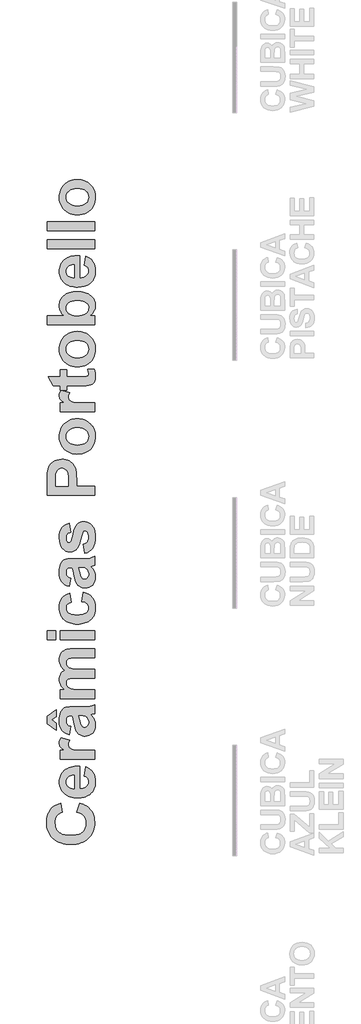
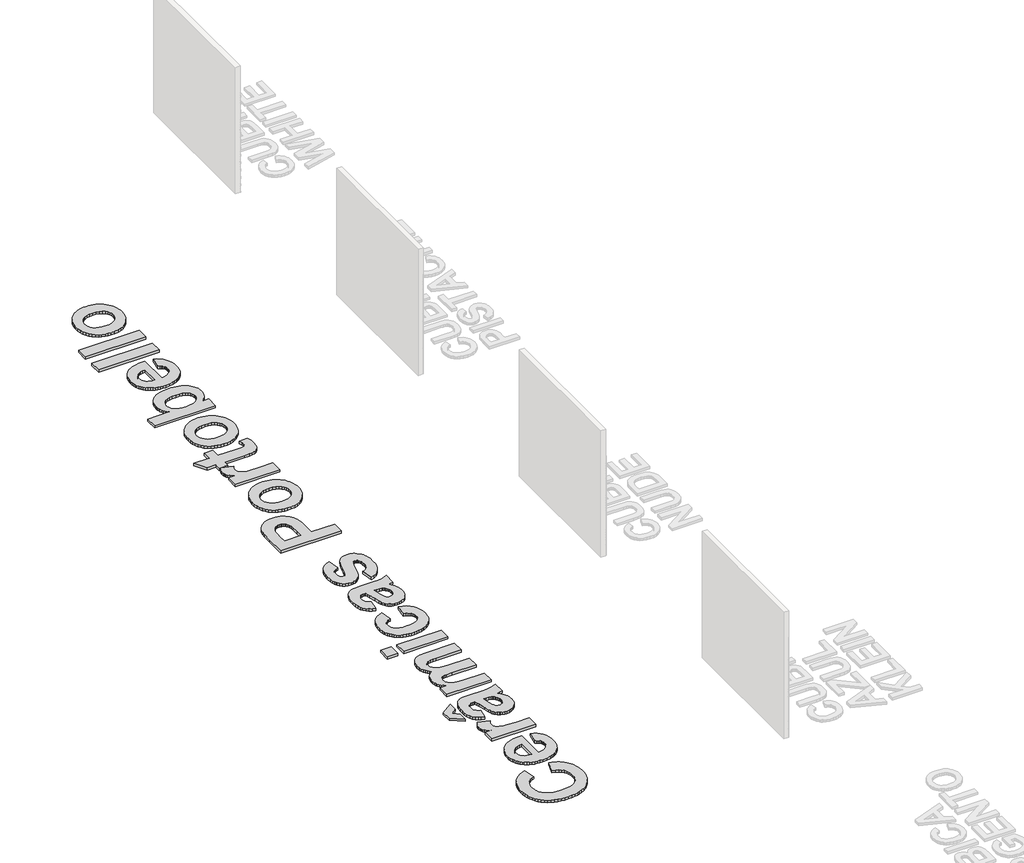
# One storey, part 63 of 121: 21 proxies.
"""IFC4 building model written with IfcOpenShell, lengths in millimetres."""

from ifc_helpers import new_model, si_unit, origin, origin_with_axes, place, context, project, spatial, polyline, outline, extrude, transform, mapped, element, save
from components import generic_models_b2b2c5c1, generic_models_5d175859

model = new_model("IFC4")

# Units and contexts
model_context = context("Model", 3, world=origin())
ifc_project = project(units=[si_unit("LENGTHUNIT", "METRE", prefix="MILLI")], contexts=[model_context])

# Site, building, storey
site = spatial("IfcSite", under=ifc_project)
building = spatial("IfcBuilding", under=site)
storey = spatial("IfcBuildingStorey", under=building, Name="PORTOBELLO - SHOWROOM", Elevation=0.0)

# Proxies
placement = place(None, origin())
generic_models_shape = generic_models_b2b2c5c1(model_context)
element("IfcBuildingElementProxy", 1, Name="PBSHOP - CUBICA NUDE 4,8X8,3 : CUBICA NUDE - POSIÇÃO 01", ObjectType="PBSHOP - CUBICA NUDE 4,8X8,3 : CUBICA NUDE - POSIÇÃO 01", at=placement, inside=storey, context=model_context, shape_type="MappedRepresentation", body=[
    mapped(generic_models_shape, transform((150369.5341846, 8031.654592, 39.4221668), x_axis=(0.0, 1.0, 0.0), y_axis=(0.0, 0.0, 1.0), z_axis=(1.0, 0.0, 0.0))),
])
element("IfcBuildingElementProxy", 2, Name="PBSHOP - CUBICA NUDE 4,8X8,3 : CUBICA NUDE - POSIÇÃO 01", ObjectType="PBSHOP - CUBICA NUDE 4,8X8,3 : CUBICA NUDE - POSIÇÃO 01", at=placement, inside=storey, context=model_context, shape_type="MappedRepresentation", body=[
    mapped(generic_models_shape, transform((150369.5341846, 8122.4938612, 39.4221668), x_axis=(0.0, 1.0, 0.0), y_axis=(0.0, 0.0, 1.0), z_axis=(1.0, 0.0, 0.0))),
])
element("IfcBuildingElementProxy", 3, Name="PBSHOP - CUBICA NUDE 4,8X8,3 : CUBICA NUDE - POSIÇÃO 01", ObjectType="PBSHOP - CUBICA NUDE 4,8X8,3 : CUBICA NUDE - POSIÇÃO 01", at=placement, inside=storey, context=model_context, shape_type="MappedRepresentation", body=[
    mapped(generic_models_shape, transform((150369.5341846, 8213.3331304, 39.4221668), x_axis=(0.0, 1.0, 0.0), y_axis=(0.0, 0.0, 1.0), z_axis=(1.0, 0.0, 0.0))),
])
element("IfcBuildingElementProxy", 4, Name="PBSHOP - CUBICA NUDE 4,8X8,3 : CUBICA NUDE - POSIÇÃO 01", ObjectType="PBSHOP - CUBICA NUDE 4,8X8,3 : CUBICA NUDE - POSIÇÃO 01", at=placement, inside=storey, context=model_context, shape_type="MappedRepresentation", body=[
    mapped(generic_models_shape, transform((150369.5341846, 8304.1723997, 39.4221668), x_axis=(0.0, 1.0, 0.0), y_axis=(0.0, 0.0, 1.0), z_axis=(1.0, 0.0, 0.0))),
])
element("IfcBuildingElementProxy", 5, Name="PBSHOP - CUBICA NUDE 4,8X8,3 : CUBICA NUDE - POSIÇÃO 01", ObjectType="PBSHOP - CUBICA NUDE 4,8X8,3 : CUBICA NUDE - POSIÇÃO 01", at=placement, inside=storey, context=model_context, shape_type="MappedRepresentation", body=[
    mapped(generic_models_shape, transform((150369.5341846, 8395.0116689, 39.4221668), x_axis=(0.0, 1.0, 0.0), y_axis=(0.0, 0.0, 1.0), z_axis=(1.0, 0.0, 0.0))),
])
element("IfcBuildingElementProxy", 6, Name="PBSHOP - CUBICA NUDE 4,8X8,3 : CUBICA NUDE - POSIÇÃO 01", ObjectType="PBSHOP - CUBICA NUDE 4,8X8,3 : CUBICA NUDE - POSIÇÃO 01", at=placement, inside=storey, context=model_context, shape_type="MappedRepresentation", body=[
    mapped(generic_models_shape, transform((150369.5341846, 8485.8509382, 39.4221668), x_axis=(0.0, 1.0, 0.0), y_axis=(0.0, 0.0, 1.0), z_axis=(1.0, 0.0, 0.0))),
])
element("IfcBuildingElementProxy", 7, Name="PBSHOP - CUBICA NUDE 4,8X8,3 : CUBICA NUDE - POSIÇÃO 01", ObjectType="PBSHOP - CUBICA NUDE 4,8X8,3 : CUBICA NUDE - POSIÇÃO 01", at=placement, inside=storey, context=model_context, shape_type="MappedRepresentation", body=[
    mapped(generic_models_shape, transform((150369.5341846, 8576.6902074, 39.4221668), x_axis=(0.0, 1.0, 0.0), y_axis=(0.0, 0.0, 1.0), z_axis=(1.0, 0.0, 0.0))),
])
element("IfcBuildingElementProxy", 8, Name="PBSHOP - CUBICA NUDE 4,8X8,3 : CUBICA NUDE - POSIÇÃO 01", ObjectType="PBSHOP - CUBICA NUDE 4,8X8,3 : CUBICA NUDE - POSIÇÃO 01", at=placement, inside=storey, context=model_context, shape_type="MappedRepresentation", body=[
    mapped(generic_models_shape, transform((150369.5341846, 8667.5294767, 39.4221668), x_axis=(0.0, 1.0, 0.0), y_axis=(0.0, 0.0, 1.0), z_axis=(1.0, 0.0, 0.0))),
])
element("IfcBuildingElementProxy", 9, Name="PBSHOP - CUBICA NUDE 4,8X8,3 : CUBICA NUDE - POSIÇÃO 01", ObjectType="PBSHOP - CUBICA NUDE 4,8X8,3 : CUBICA NUDE - POSIÇÃO 01", at=placement, inside=storey, context=model_context, shape_type="MappedRepresentation", body=[
    mapped(generic_models_shape, transform((150369.5341846, 8758.3687459, 39.4221668), x_axis=(0.0, 1.0, 0.0), y_axis=(0.0, 0.0, 1.0), z_axis=(1.0, 0.0, 0.0))),
])
element("IfcBuildingElementProxy", 10, Name="PBSHOP - CUBICA NUDE 4,8X8,3 : CUBICA NUDE - POSIÇÃO 01", ObjectType="PBSHOP - CUBICA NUDE 4,8X8,3 : CUBICA NUDE - POSIÇÃO 01", at=placement, inside=storey, context=model_context, shape_type="MappedRepresentation", body=[
    mapped(generic_models_shape, transform((150369.5341846, 8849.2080152, 39.4221668), x_axis=(0.0, 1.0, 0.0), y_axis=(0.0, 0.0, 1.0), z_axis=(1.0, 0.0, 0.0))),
])
generic_models_2_shape = generic_models_5d175859(model_context)
element("IfcBuildingElementProxy", 11, Name="PBSHOP - CUBICA NUDE 4,8X8,3 : CUBICA NUDE - POSIÇÃO 01", ObjectType="PBSHOP - CUBICA NUDE 4,8X8,3 : CUBICA NUDE - POSIÇÃO 01", at=placement, inside=storey, context=model_context, shape_type="MappedRepresentation", body=[
    mapped(generic_models_2_shape, transform((150369.5341846, 8077.0785449, 39.4221668), x_axis=(0.0, -1.0, 0.0), y_axis=(0.0, 0.0, -1.0), z_axis=(1.0, 0.0, 0.0))),
])
element("IfcBuildingElementProxy", 12, Name="PBSHOP - CUBICA NUDE 4,8X8,3 : CUBICA NUDE - POSIÇÃO 01", ObjectType="PBSHOP - CUBICA NUDE 4,8X8,3 : CUBICA NUDE - POSIÇÃO 01", at=placement, inside=storey, context=model_context, shape_type="MappedRepresentation", body=[
    mapped(generic_models_2_shape, transform((150369.5341846, 8167.9178142, 39.4221668), x_axis=(0.0, -1.0, 0.0), y_axis=(0.0, 0.0, -1.0), z_axis=(1.0, 0.0, 0.0))),
])
element("IfcBuildingElementProxy", 13, Name="PBSHOP - CUBICA NUDE 4,8X8,3 : CUBICA NUDE - POSIÇÃO 01", ObjectType="PBSHOP - CUBICA NUDE 4,8X8,3 : CUBICA NUDE - POSIÇÃO 01", at=placement, inside=storey, context=model_context, shape_type="MappedRepresentation", body=[
    mapped(generic_models_2_shape, transform((150369.5341846, 8258.7570834, 39.4221668), x_axis=(0.0, -1.0, 0.0), y_axis=(0.0, 0.0, -1.0), z_axis=(1.0, 0.0, 0.0))),
])
element("IfcBuildingElementProxy", 14, Name="PBSHOP - CUBICA NUDE 4,8X8,3 : CUBICA NUDE - POSIÇÃO 01", ObjectType="PBSHOP - CUBICA NUDE 4,8X8,3 : CUBICA NUDE - POSIÇÃO 01", at=placement, inside=storey, context=model_context, shape_type="MappedRepresentation", body=[
    mapped(generic_models_2_shape, transform((150369.5341846, 8349.5963526, 39.4221668), x_axis=(0.0, -1.0, 0.0), y_axis=(0.0, 0.0, -1.0), z_axis=(1.0, 0.0, 0.0))),
])
element("IfcBuildingElementProxy", 15, Name="PBSHOP - CUBICA NUDE 4,8X8,3 : CUBICA NUDE - POSIÇÃO 01", ObjectType="PBSHOP - CUBICA NUDE 4,8X8,3 : CUBICA NUDE - POSIÇÃO 01", at=placement, inside=storey, context=model_context, shape_type="MappedRepresentation", body=[
    mapped(generic_models_2_shape, transform((150369.5341846, 8440.4356219, 39.4221668), x_axis=(0.0, -1.0, 0.0), y_axis=(0.0, 0.0, -1.0), z_axis=(1.0, 0.0, 0.0))),
])
element("IfcBuildingElementProxy", 16, Name="PBSHOP - CUBICA NUDE 4,8X8,3 : CUBICA NUDE - POSIÇÃO 01", ObjectType="PBSHOP - CUBICA NUDE 4,8X8,3 : CUBICA NUDE - POSIÇÃO 01", at=placement, inside=storey, context=model_context, shape_type="MappedRepresentation", body=[
    mapped(generic_models_2_shape, transform((150369.5341846, 8531.2748911, 39.4221668), x_axis=(0.0, -1.0, 0.0), y_axis=(0.0, 0.0, -1.0), z_axis=(1.0, 0.0, 0.0))),
])
element("IfcBuildingElementProxy", 17, Name="PBSHOP - CUBICA NUDE 4,8X8,3 : CUBICA NUDE - POSIÇÃO 01", ObjectType="PBSHOP - CUBICA NUDE 4,8X8,3 : CUBICA NUDE - POSIÇÃO 01", at=placement, inside=storey, context=model_context, shape_type="MappedRepresentation", body=[
    mapped(generic_models_2_shape, transform((150369.5341846, 8622.1141604, 39.4221668), x_axis=(0.0, -1.0, 0.0), y_axis=(0.0, 0.0, -1.0), z_axis=(1.0, 0.0, 0.0))),
])
element("IfcBuildingElementProxy", 18, Name="PBSHOP - CUBICA NUDE 4,8X8,3 : CUBICA NUDE - POSIÇÃO 01", ObjectType="PBSHOP - CUBICA NUDE 4,8X8,3 : CUBICA NUDE - POSIÇÃO 01", at=placement, inside=storey, context=model_context, shape_type="MappedRepresentation", body=[
    mapped(generic_models_2_shape, transform((150369.5341846, 8712.9534296, 39.4221668), x_axis=(0.0, -1.0, 0.0), y_axis=(0.0, 0.0, -1.0), z_axis=(1.0, 0.0, 0.0))),
])
element("IfcBuildingElementProxy", 19, Name="PBSHOP - CUBICA NUDE 4,8X8,3 : CUBICA NUDE - POSIÇÃO 01", ObjectType="PBSHOP - CUBICA NUDE 4,8X8,3 : CUBICA NUDE - POSIÇÃO 01", at=placement, inside=storey, context=model_context, shape_type="MappedRepresentation", body=[
    mapped(generic_models_2_shape, transform((150369.5341846, 8803.7926989, 39.4221668), x_axis=(0.0, -1.0, 0.0), y_axis=(0.0, 0.0, -1.0), z_axis=(1.0, 0.0, 0.0))),
])
element("IfcBuildingElementProxy", 20, Name="PBSHOP - CUBICA NUDE 4,8X8,3 : CUBICA NUDE - POSIÇÃO 01", ObjectType="PBSHOP - CUBICA NUDE 4,8X8,3 : CUBICA NUDE - POSIÇÃO 01", at=placement, inside=storey, context=model_context, shape_type="MappedRepresentation", body=[
    mapped(generic_models_2_shape, transform((150369.5341846, 8894.6319681, 39.4221668), x_axis=(0.0, -1.0, 0.0), y_axis=(0.0, 0.0, -1.0), z_axis=(1.0, 0.0, 0.0))),
])
element("IfcBuildingElementProxy", 21, Name="1200 mm Arial", ObjectType="1200 mm Arial", at=placement, inside=storey, context=model_context, shape_type="SweptSolid", body=[
    extrude(outline(polyline([(146231.9167444, 1101.8407354), (146309.650794, 1335.042884), (146357.3354903, 1320.0834444), (146401.8555986, 1302.8371511), (146443.2111187, 1283.304004), (146481.4020508, 1261.4840032), (146516.4283949, 1237.3771486), (146548.2901508, 1210.9834402), (146576.9873187, 1182.3028781), (146602.5198985, 1151.3354623), (146624.9732914, 1118.1428713), (146644.4328986, 1082.7867838), (146660.8987201, 1045.2671999), (146674.3707558, 1005.5841194), (146684.8490058, 963.7375425), (146692.3334701, 919.727469), (146698.3210416, 825.2168327), (146695.7637508, 765.46922), (146688.0918783, 708.444956), (146675.3054242, 654.1440407), (146657.4043885, 602.566474), (146634.3887712, 553.712256), (146606.2585723, 507.5813867), (146573.0137917, 464.173866), (146534.6544295, 423.4896939), (146491.8589506, 386.6248523), (146445.3058198, 354.6753229), (146394.9950373, 327.6411058), (146340.926603, 305.5222008), (146283.1005168, 288.3186081), (146221.5167788, 276.0303275), (146156.1753891, 268.6573592), (146087.0763475, 266.1997031), (146014.0962968, 268.6787095), (145945.3103929, 276.1157287), (145880.7186357, 288.5107607), (145820.3210252, 305.8638055), (145764.1175614, 328.1748631), (145712.1082444, 355.4439335), (145664.293074, 387.6710167), (145620.6720504, 424.8561128), (145581.743347, 466.0835312), (145548.0051374, 510.4375816), (145519.4574216, 557.918264), (145496.1001995, 608.5255784), (145477.9334713, 662.2595248), (145464.9572368, 719.1201032), (145457.1714961, 779.1073136), (145454.5762492, 842.221156), (145456.7160232, 897.3713386), (145463.135345, 949.8645957), (145473.8342148, 999.7009272), (145488.8126324, 1046.8803332), (145508.0705979, 1091.4028138), (145531.6081113, 1133.2683687), (145559.4251726, 1172.4769982), (145591.5217818, 1209.0287022), (145636.3289329, 1248.4460901), (145689.9798504, 1282.587583), (145752.4745342, 1311.453181), (145823.8129845, 1335.042884), (145862.6800092, 1101.8407354), (145819.9699315, 1087.1422439), (145782.0233416, 1066.1240652), (145748.8402397, 1038.7861994), (145720.4206256, 1005.1286465), (145697.6374893, 966.3280449), (145681.3638205, 923.561033), (145671.5996192, 876.8276109), (145668.3448854, 826.1277785), (145674.2565447, 756.8294676), (145681.6461188, 724.7494641), (145691.9915226, 694.3822288), (145705.2927559, 665.7277615), (145721.549819, 638.7860623), (145740.7627116, 613.5571311), (145762.931434, 590.040968), (145788.4070796, 568.7974251), (145817.5407424, 550.3863546), (145850.3324223, 534.8077565), (145886.7821193, 522.0616307), (145926.8898334, 512.1479774), (145970.6555646, 505.0667964), (146069.1610783, 499.4018517), (146173.4264269, 504.8959941), (146219.4956176, 511.7636721), (146261.522486, 521.3784213), (146299.5070319, 533.7402418), (146333.4492554, 548.8491334), (146363.3491565, 566.7050963), (146389.2067353, 587.3081303), (146411.5533767, 610.1126169), (146430.9204659, 634.5729375), (146447.308003, 660.689092), (146460.7159879, 688.4610805), (146471.1444205, 717.8889029), (146478.593301, 748.9725592), (146484.5524054, 816.1073737), (146480.7473085, 866.0860406), (146469.3320178, 912.477858), (146450.3065332, 955.2828259), (146423.6708549, 994.5009444), (146388.8556415, 1029.2782017), (146345.291552, 1058.7605859), (146292.9785863, 1082.9480972), (146231.9167444, 1101.8407354)])), origin_with_axes(), (0.0, 0.0, 1.0), 50.0),
    extrude(outline(polyline([(146426.2518682, 2034.6493297), (146465.118893, 2267.8514782), (146523.2201607, 2242.6486419), (146573.9389711, 2211.0691843), (146617.2753242, 2173.1131054), (146653.2292199, 2128.7804053), (146681.4590535, 2078.2798423), (146701.6232204, 2021.820175), (146713.7217206, 1959.4014033), (146717.7545539, 1891.0235273), (146715.3775545, 1836.3810072), (146708.2465562, 1785.4107378), (146696.361559, 1738.112719), (146679.7225629, 1694.4869509), (146658.329568, 1654.5334334), (146632.1825741, 1618.2521665), (146601.2815814, 1585.6431502), (146565.6265898, 1556.7063846), (146534.184723, 1536.6371079), (146500.740673, 1519.2437347), (146465.2944399, 1504.5262652), (146427.8460236, 1492.4846991), (146346.9426415, 1476.4292778), (146258.0305267, 1471.0774707), (146204.1139167, 1472.8519173), (146153.1958369, 1478.1752574), (146105.2762873, 1487.0474908), (146060.355268, 1499.4686177), (146018.4327789, 1515.4386378), (145979.50882, 1534.9575514), (145943.5833913, 1558.0253583), (145910.6564929, 1584.6420586), (145881.1930867, 1613.9726186), (145855.6581346, 1645.1820044), (145834.0516367, 1678.2702162), (145816.373593, 1713.2372538), (145802.6240034, 1750.0831174), (145792.802868, 1788.8078069), (145786.9101868, 1829.4113222), (145784.9459597, 1871.8936635), (145786.9623764, 1919.3435066), (145793.0116265, 1964.2218253), (145803.0937099, 2006.5286198), (145817.2086267, 2046.2638898), (145835.3563769, 2083.4276355), (145857.5369605, 2118.0198569), (145883.7503775, 2150.040554), (145913.9966279, 2179.4897266), (145948.4085579, 2205.8170118), (145987.1190138, 2228.4720464), (146030.1279957, 2247.4548304), (146077.4355035, 2262.7653637), (146129.0415372, 2274.4036464), (146184.9460968, 2282.3696784), (146245.1491824, 2286.6634598), (146309.650794, 2287.2849906), (146309.650794, 1704.2796192), (146361.8404024, 1708.6255903), (146407.8811261, 1719.2343143), (146447.772965, 1736.1057914), (146481.5159191, 1759.2400214), (146508.3508668, 1787.1187614), (146527.5186867, 1818.223768), (146539.0193786, 1852.5550413), (146542.8529425, 1890.1125814), (146541.1259409, 1915.6380444), (146535.9449362, 1939.0759231), (146527.3099282, 1960.4262175), (146515.2209171, 1979.6889275), (146499.298342, 1996.788141), (146479.1626422, 2011.6479459), (146454.8138176, 2024.2683421), (146426.2518682, 2034.6493297)]), holes=[polyline([(146173.6162073, 2054.0828421), (146124.377684, 2049.9266514), (146081.4208917, 2039.8872686), (146044.7458305, 2023.9646935), (146014.3525004, 2002.1589262), (145990.5065938, 1976.0831), (145973.4738034, 1947.3503483), (145963.2541292, 1915.9606711), (145959.8475711, 1881.9140683), (145963.4344206, 1845.7419252), (145974.1949689, 1812.8340048), (145992.1292162, 1783.1903072), (146017.2371624, 1756.8108324), (146048.6458176, 1735.3276917), (146085.1785435, 1720.069348), (146126.8353401, 1711.0358013), (146173.6162073, 1708.2270514), (146173.6162073, 2054.0828421)])]), origin_with_axes(), (0.0, 0.0, 1.0), 50.0),
    extrude(outline(polyline([(146698.3210416, 2695.3887506), (146698.3210416, 2462.186602), (145804.3794721, 2462.186602), (145804.3794721, 2695.3887506), (145928.8754108, 2695.3887506), (145855.6581346, 2744.655741), (145830.4078532, 2767.296542), (145812.7298094, 2788.6088803), (145800.5743752, 2809.9781527), (145791.8919221, 2832.7897561), (145786.6824503, 2857.0436905), (145784.9459597, 2882.7399559), (145788.0204021, 2919.4624622), (145797.2437293, 2955.5397152), (145812.6159412, 2990.9717148), (145834.1370379, 3025.7584611), (146056.1041871, 2957.7411677), (146039.4984026, 2929.1222843), (146027.637128, 2901.566171), (146020.5203632, 2875.072828), (146018.1481083, 2849.6422551), (146019.8086867, 2826.2897776), (146024.7904221, 2804.816126), (146033.0933143, 2785.2213003), (146044.7173635, 2767.5053005), (146060.6684056, 2751.6206815), (146081.9522768, 2737.5199982), (146108.5689771, 2725.2032506), (146140.5185065, 2714.6704387), (146184.6234702, 2706.2347001), (146247.7064733, 2700.2091726), (146430.8065977, 2695.3887506), (146698.3210416, 2695.3887506)])), origin_with_axes(), (0.0, 0.0, 1.0), 50.0),
    extrude(outline(polyline([(146076.4486454, 3317.2611468), (146037.5816206, 3103.4925106), (145977.3832796, 3123.5807653), (145925.5352758, 3149.8368829), (145882.0376094, 3182.2608633), (145846.8902804, 3220.8527065), (145819.7896401, 3267.5671505), (145800.4320399, 3324.3589335), (145788.8174797, 3391.2280555), (145784.9459597, 3468.1745164), (145787.2897476, 3537.9567674), (145794.3211112, 3598.2120426), (145806.0400505, 3648.940342), (145822.4465656, 3690.1416656), (145842.4494192, 3723.8846197), (145864.957374, 3752.2378106), (145889.9704299, 3775.2012383), (145917.4885871, 3792.7749028), (145952.2848224, 3805.7938379), (145999.1321128, 3815.0930772), (146058.0304581, 3820.6726208), (146128.9798586, 3822.5324687), (146404.6928154, 3822.5324687), (146507.0224041, 3825.606911), (146578.3798323, 3834.8302382), (146636.3008087, 3852.4798149), (146698.3210416, 3880.8330058), (146698.3210416, 3647.6308572), (146624.2307756, 3625.7681558), (146594.7768584, 3617.5696428), (146623.5380772, 3587.9069671), (146648.48471, 3557.2194774), (146669.6167569, 3525.5071735), (146686.9342179, 3492.7700555), (146700.4181149, 3458.9701672), (146710.0494699, 3424.0695527), (146715.8282829, 3388.0682119), (146717.7545539, 3350.9661448), (146713.0764672, 3287.9875209), (146699.0422071, 3232.0497497), (146675.6517735, 3183.1528311), (146642.9051664, 3141.2967651), (146603.0228166, 3107.7530804), (146558.2251545, 3083.7933057), (146508.5121802, 3069.4174408), (146453.8838937, 3064.6254858), (146417.1044532, 3066.7605153), (146382.3746411, 3073.1656036), (146349.6944572, 3083.8407508), (146319.0639015, 3098.7859568), (146291.1851616, 3117.5837049), (146266.7604248, 3139.8164781), (146245.7896913, 3165.4842764), (146228.2729609, 3194.5870999), (146212.9956391, 3228.804505), (146198.7431315, 3269.8160482), (146173.3125587, 3372.221549), (146143.3272564, 3504.8400885), (146129.0747488, 3553.1012428), (146115.3156702, 3589.3303201), (146090.7201311, 3589.3303201), (146057.8881228, 3587.5179173), (146030.1422292, 3582.080709), (146007.4824501, 3573.0186952), (145989.9087856, 3560.3318758), (145976.7570043, 3542.6348541), (145967.3628747, 3518.542233), (145961.726397, 3488.0540127), (145959.8475711, 3451.170193), (145961.4607045, 3425.4929057), (145966.3001045, 3402.8141485), (145974.3657713, 3383.1339217), (145985.6577048, 3366.452225), (146001.0109387, 3351.9909589), (146021.2605067, 3338.9720239), (146076.4486454, 3317.2611468)]), holes=[polyline([(146290.2172816, 3589.3303201), (146305.1340206, 3535.6604246), (146322.5558608, 3457.8504629), (146341.1163833, 3383.4565483), (146359.4491694, 3340.0347941), (146375.0301398, 3321.5691617), (146392.6227824, 3308.3794243), (146412.2270971, 3300.4655819), (146433.843084, 3297.8276344), (146455.2598015, 3299.9436858), (146475.1772539, 3306.29184), (146493.5954412, 3316.872097), (146510.5143633, 3331.6844567), (146524.6624917, 3349.7610393), (146534.7682977, 3370.1339646), (146540.8317813, 3392.8032327), (146542.8529425, 3417.7688436), (146540.4996656, 3446.7103538), (146533.439835, 3474.9306984), (146521.6734505, 3502.4298775), (146505.2005123, 3529.2078912), (146490.131949, 3547.2370286), (146473.4692304, 3561.850119), (146455.2123564, 3573.0471623), (146435.3613272, 3580.8281584), (146396.1147416, 3587.2047797), (146332.4244413, 3589.3303201), (146290.2172816, 3589.3303201)])]), origin_with_axes(), (0.0, 0.0, 1.0), 50.0),
    extrude(outline(polyline([(145707.2119102, 3220.0935849), (145474.0097616, 3386.4930346), (145474.0097616, 3580.8281584), (145707.2119102, 3744.7984191), (145707.2119102, 3569.8968077), (145590.6108359, 3482.446002), (145707.2119102, 3394.9951963), (145707.2119102, 3220.0935849)])), origin_with_axes(), (0.0, 0.0, 1.0), 50.0),
    extrude(outline(polyline([(145804.3794721, 4036.3011048), (145804.3794721, 4269.5032534), (145924.0170327, 4269.5032534), (145891.4222499, 4297.5575402), (145863.1734382, 4326.9118227), (145839.2705976, 4357.5661009), (145819.7137279, 4389.5203748), (145804.5028293, 4422.7746444), (145793.6379018, 4457.3289097), (145787.1189452, 4493.1831707), (145784.9459597, 4530.3374274), (145787.0809891, 4569.2329192), (145793.4860774, 4605.4525075), (145804.1612246, 4638.9961922), (145819.1064307, 4669.8639733), (145838.3786297, 4698.0748289), (145862.0347559, 4723.6477371), (145890.0748091, 4746.5826977), (145922.4987895, 4766.8797109), (145890.0748091, 4796.1533367), (145862.0347559, 4826.5846229), (145838.3786297, 4858.1735696), (145819.1064307, 4890.9201766), (145804.1612246, 4924.805466), (145793.4860774, 4959.8104598), (145787.0809891, 4995.9351578), (145784.9459597, 5033.1795602), (145787.4415719, 5079.3151741), (145794.9284084, 5121.7690483), (145807.4064694, 5160.5411829), (145824.8757547, 5195.6315778), (145847.18444, 5226.7935185), (145874.1807011, 5253.7802906), (145905.864538, 5276.591894), (145942.2359505, 5295.2283287), (145975.200805, 5305.5903382), (146017.0094259, 5312.9917736), (146067.6618131, 5317.4326349), (146127.1579668, 5318.9129219), (146698.3210416, 5318.9129219), (146698.3210416, 5085.7107734), (146183.6366121, 5085.7107734), (146122.6222153, 5084.2304863), (146073.4880713, 5079.7896251), (146036.2341798, 5072.3881897), (146010.8605411, 5062.0261802), (145988.5423667, 5044.0729549), (145972.6008136, 5021.7927366), (145963.0358817, 4995.1855253), (145959.8475711, 4964.251321), (145961.7548641, 4940.6141729), (145967.476743, 4917.6792122), (145977.0132078, 4895.446439), (145990.3642585, 4873.9158533), (146007.3970489, 4854.2166484), (146027.9787327, 4837.4780176), (146052.1093098, 4823.6999609), (146079.7887803, 4812.8824785), (146113.5127564, 4804.7124325), (146155.7768502, 4798.8766854), (146265.9253911, 4794.2080877), (146698.3210416, 4794.2080877), (146698.3210416, 4561.0059391), (146204.8920163, 4561.0059391), (146096.7551476, 4557.9694528), (146060.1939546, 4554.1738449), (146035.3042559, 4548.8599939), (146002.0547308, 4533.4118698), (145978.5219619, 4511.3593879), (145964.5161688, 4481.4120417), (145959.8475711, 4442.2793244), (145961.69793, 4416.6779492), (145967.2490065, 4392.4050368), (145976.5008007, 4369.4605871), (145989.4533126, 4347.8446002), (146005.9072728, 4328.3731317), (146025.6634119, 4311.8622374), (146048.7217298, 4298.3119173), (146075.0822266, 4287.7221713), (146107.6959873, 4279.7513947), (146149.5140972, 4274.0579829), (146260.7633644, 4269.5032534), (146698.3210416, 4269.5032534), (146698.3210416, 4036.3011048), (145804.3794721, 4036.3011048)])), origin_with_axes(), (0.0, 0.0, 1.0), 50.0),
    extrude(outline(polyline([(145687.7783978, 5552.1150705), (145474.0097616, 5552.1150705), (145474.0097616, 5785.3172191), (145687.7783978, 5785.3172191), (145687.7783978, 5552.1150705)])), origin_with_axes(), (0.0, 0.0, 1.0), 50.0),
    extrude(outline(polyline([(146698.3210416, 5552.1150705), (145804.3794721, 5552.1150705), (145804.3794721, 5785.3172191), (146698.3210416, 5785.3172191), (146698.3210416, 5552.1150705)])), origin_with_axes(), (0.0, 0.0, 1.0), 50.0),
    extrude(outline(polyline([(146057.015133, 6756.9928381), (146095.8821578, 6523.7906895), (146064.1224088, 6516.5885235), (146036.5568065, 6505.9133764), (146013.185351, 6491.765248), (145994.0080421, 6474.1441383), (145979.062836, 6453.3347181), (145968.3876889, 6429.6216578), (145961.9826006, 6403.0049575), (145959.8475711, 6373.4846172), (145963.8519374, 6334.427812), (145975.8650364, 6299.5461755), (145995.886868, 6268.8397077), (146023.9174323, 6242.3084086), (146061.323148, 6220.9201582), (146109.470434, 6205.6428364), (146168.3592904, 6196.4764434), (146237.9897171, 6193.420979), (146315.3631838, 6196.5998006), (146380.4768371, 6206.1362655), (146433.330677, 6222.0303735), (146473.9247033, 6244.2821247), (146504.080808, 6271.8856831), (146525.6208827, 6303.8352125), (146538.5449276, 6340.1307129), (146542.8529425, 6380.7721843), (146540.3952864, 6411.3552949), (146533.0223181, 6439.0347654), (146520.7340376, 6463.8105959), (146503.5304448, 6485.6827863), (146480.3108136, 6504.5944026), (146449.9744175, 6520.4885106), (146412.5212567, 6533.3651104), (146367.9513311, 6543.2242019), (146406.8183559, 6776.4263504), (146479.077241, 6754.9337208), (146541.9040406, 6725.3754244), (146595.2987545, 6687.7514612), (146639.2613828, 6642.0618312), (146657.6582198, 6616.1449461), (146673.6021452, 6588.1167542), (146698.1312612, 6525.7264495), (146712.8487308, 6454.8909173), (146717.7545539, 6375.6101576), (146715.8235384, 6329.3677923), (146710.0304919, 6285.5308934), (146700.3754143, 6244.0994611), (146686.8583057, 6205.0734952), (146669.4791661, 6168.4529959), (146648.2379955, 6134.2379631), (146623.1347938, 6102.4283967), (146594.1695612, 6073.0242969), (146561.7930259, 6046.5855157), (146526.4559165, 6023.6719053), (146488.1582329, 6004.2834658), (146446.8999751, 5988.4201971), (146402.6811433, 5976.0820992), (146355.5017372, 5967.2691721), (146305.3617571, 5961.9814159), (146252.2612027, 5960.2188305), (146198.5272563, 5961.9695546), (146147.8535188, 5967.221727), (146100.2399901, 5975.9753477), (146055.6866703, 5988.2304167), (146014.1935593, 6003.9869339), (145975.7606572, 6023.2448994), (145940.3879639, 6046.0043132), (145908.0754795, 6072.2651753), (145879.2169983, 6101.5150786), (145854.2063146, 6133.241616), (145833.0434284, 6167.4447876), (145815.7283397, 6204.1245933), (145802.2610484, 6243.2810331), (145792.6415547, 6284.9141071), (145786.8698584, 6329.0238153), (145784.9459597, 6375.6101576), (145789.1495954, 6449.7953137), (145801.7605026, 6515.9717373), (145822.7786813, 6574.1394281), (145852.2041315, 6624.2983863), (145890.2266335, 6667.2077335), (145937.0359677, 6703.6265912), (145992.6321342, 6733.5549594), (146057.015133, 6756.9928381)])), origin_with_axes(), (0.0, 0.0, 1.0), 50.0),
    extrude(outline(polyline([(146076.4486454, 7145.6630857), (146037.5816206, 6931.8944495), (145977.3832796, 6951.9827042), (145925.5352758, 6978.2388218), (145882.0376094, 7010.6628021), (145846.8902804, 7049.2546453), (145819.7896401, 7095.9690894), (145800.4320399, 7152.7608724), (145788.8174797, 7219.6299944), (145784.9459597, 7296.5764552), (145787.2897476, 7366.3587062), (145794.3211112, 7426.6139814), (145806.0400505, 7477.3422808), (145822.4465656, 7518.5436045), (145842.4494192, 7552.2865586), (145864.957374, 7580.6397495), (145889.9704299, 7603.6031772), (145917.4885871, 7621.1768417), (145952.2848224, 7634.1957768), (145999.1321128, 7643.4950161), (146058.0304581, 7649.0745597), (146128.9798586, 7650.9344075), (146404.6928154, 7650.9344075), (146507.0224041, 7654.0088499), (146578.3798323, 7663.2321771), (146636.3008087, 7680.8817538), (146698.3210416, 7709.2349447), (146698.3210416, 7476.0327961), (146624.2307756, 7454.1700947), (146594.7768584, 7445.9715817), (146623.5380772, 7416.308906), (146648.48471, 7385.6214163), (146669.6167569, 7353.9091124), (146686.9342179, 7321.1719943), (146700.4181149, 7287.3721061), (146710.0494699, 7252.4714916), (146715.8282829, 7216.4701508), (146717.7545539, 7179.3680837), (146713.0764672, 7116.3894598), (146699.0422071, 7060.4516886), (146675.6517735, 7011.55477), (146642.9051664, 6969.698704), (146603.0228166, 6936.1550193), (146558.2251545, 6912.1952445), (146508.5121802, 6897.8193797), (146453.8838937, 6893.0274247), (146417.1044532, 6895.1624542), (146382.3746411, 6901.5675425), (146349.6944572, 6912.2426896), (146319.0639015, 6927.1878957), (146291.1851616, 6945.9856438), (146266.7604248, 6968.218417), (146245.7896913, 6993.8862153), (146228.2729609, 7022.9890388), (146212.9956391, 7057.2064439), (146198.7431315, 7098.2179871), (146173.3125587, 7200.6234879), (146143.3272564, 7333.2420274), (146129.0747488, 7381.5031817), (146115.3156702, 7417.732259), (146090.7201311, 7417.732259), (146057.8881228, 7415.9198562), (146030.1422292, 7410.4826479), (146007.4824501, 7401.4206341), (145989.9087856, 7388.7338147), (145976.7570043, 7371.036793), (145967.3628747, 7346.9441719), (145961.726397, 7316.4559515), (145959.8475711, 7279.5721319), (145961.4607045, 7253.8948446), (145966.3001045, 7231.2160874), (145974.3657713, 7211.5358605), (145985.6577048, 7194.8541639), (146001.0109387, 7180.3928978), (146021.2605067, 7167.3739628), (146076.4486454, 7145.6630857)]), holes=[polyline([(146290.2172816, 7417.732259), (146305.1340206, 7364.0623635), (146322.5558608, 7286.2524018), (146341.1163833, 7211.8584872), (146359.4491694, 7168.436733), (146375.0301398, 7149.9711006), (146392.6227824, 7136.7813632), (146412.2270971, 7128.8675208), (146433.843084, 7126.2295733), (146455.2598015, 7128.3456247), (146475.1772539, 7134.6937789), (146493.5954412, 7145.2740359), (146510.5143633, 7160.0863956), (146524.6624917, 7178.1629782), (146534.7682977, 7198.5359035), (146540.8317813, 7221.2051716), (146542.8529425, 7246.1707825), (146540.4996656, 7275.1122926), (146533.439835, 7303.3326373), (146521.6734505, 7330.8318164), (146505.2005123, 7357.6098301), (146490.131949, 7375.6389675), (146473.4692304, 7390.2520579), (146455.2123564, 7401.4491011), (146435.3613272, 7409.2300973), (146396.1147416, 7415.6067186), (146332.4244413, 7417.732259), (146290.2172816, 7417.732259)])]), origin_with_axes(), (0.0, 0.0, 1.0), 50.0),
    extrude(outline(polyline([(146445.6853806, 7786.9689942), (146406.8183559, 8020.1711428), (146438.2080331, 8029.3660029), (146465.574366, 8042.3754489), (146488.9173545, 8059.1994809), (146508.2369986, 8079.8380987), (146523.3814741, 8104.6139292), (146534.1989565, 8133.849599), (146540.689446, 8167.545108), (146542.8529425, 8205.7004563), (146540.7843362, 8247.433165), (146534.5785173, 8283.6622423), (146524.2354858, 8314.3876881), (146509.7552418, 8339.6095025), (146497.2297357, 8352.8941301), (146482.7305136, 8362.3831498), (146466.2575754, 8368.0765617), (146447.810921, 8369.9743656), (146423.6708549, 8365.9510213), (146404.0855182, 8353.8809882), (146388.0680529, 8326.3248749), (146373.4170065, 8277.6651818), (146342.9382751, 8152.4290996), (146313.7500505, 8052.4338098), (146285.8523325, 7977.6793125), (146259.2451212, 7928.1656076), (146240.3002934, 7904.1821103), (146219.5999969, 7883.3964126), (146197.1442317, 7865.8085145), (146172.9329979, 7851.4184161), (146146.9662954, 7840.2261174), (146119.2441243, 7832.2316183), (146089.7664846, 7827.4349188), (146058.5333762, 7825.836019), (146002.9846548, 7831.3206724), (145952.0286189, 7847.7746326), (145905.6652685, 7875.1978995), (145863.8946037, 7913.5904733), (145845.3910153, 7937.0425855), (145829.354572, 7963.5216951), (145815.7852738, 7993.0278019), (145804.6831207, 8025.560906), (145789.88025, 8099.708106), (145784.9459597, 8185.9632953), (145788.931348, 8268.0812719), (145800.8875128, 8338.9262931), (145820.8144542, 8398.4983589), (145848.7121722, 8446.7974692), (145884.4288424, 8486.138945), (145927.8126406, 8518.8381069), (145978.8635666, 8544.8949551), (146037.5816206, 8564.3094894), (146076.4486454, 8331.1073408), (146049.8604122, 8323.8577298), (146026.5743578, 8313.9511932), (146006.5904822, 8301.3877311), (145989.9087856, 8286.1673435), (145976.7570043, 8267.8725135), (145967.3628747, 8246.0857242), (145961.726397, 8220.8069757), (145959.8475711, 8192.0362679), (145961.4417264, 8156.0728832), (145966.2241924, 8125.6131299), (145974.1949689, 8100.657008), (145985.3540561, 8081.2045176), (146006.3058117, 8064.579755), (146032.7232425, 8059.0381675), (146055.572802, 8064.579755), (146074.9304022, 8081.2045176), (146087.6646667, 8105.2591826), (146102.7901641, 8147.6656117), (146140.2148579, 8287.5337623), (146162.5520103, 8369.1488209), (146187.3563079, 8437.4223178), (146214.6277505, 8492.3542529), (146244.3663383, 8533.9446263), (146278.887392, 8564.2335773), (146319.5952866, 8585.8685422), (146366.4900221, 8598.8495212), (146419.5715984, 8603.1765142), (146449.6256961, 8601.6084537), (146478.60279, 8596.9042721), (146506.5028802, 8589.0639696), (146533.3259667, 8578.087546), (146559.0720495, 8563.9750015), (146583.7411285, 8546.7263359), (146629.8482753, 8502.8206416), (146650.4513094, 8476.2252916), (146668.3072722, 8446.6171779), (146683.4161638, 8413.9963003), (146695.7779843, 8378.362659), (146705.3927335, 8339.716254), (146712.2604115, 8298.0570852), (146717.7545539, 8205.7004563), (146713.1808464, 8121.0868675), (146699.4597239, 8045.791496), (146676.5911864, 7979.8143419), (146644.5752339, 7923.1554052), (146604.702373, 7875.6438835), (146558.2631105, 7837.1089744), (146505.2574464, 7807.550678), (146445.6853806, 7786.9689942)])), origin_with_axes(), (0.0, 0.0, 1.0), 50.0),
    extrude(outline(polyline([(146698.3210416, 9283.3494475), (145474.0097616, 9283.3494475), (145474.0097616, 9677.7890191), (145478.5644911, 9863.0905961), (145484.2579029, 9926.4203137), (145492.2286795, 9970.2026507), (145509.9257012, 10020.4470101), (145535.6883898, 10066.4213106), (145569.5167451, 10108.1255522), (145611.4107671, 10145.559735), (145660.6682685, 10176.4464942), (145716.5870617, 10198.508465), (145779.1671467, 10211.7456476), (145848.4085236, 10216.1580417), (145902.2017763, 10213.5675393), (145951.5351899, 10205.7960322), (145996.4087641, 10192.8435203), (146036.8224991, 10174.7100036), (146072.9566861, 10152.5816096), (146104.9916167, 10127.6444658), (146132.9272908, 10099.8985722), (146156.7637083, 10069.3439287), (146176.7191168, 10037.261553), (146193.0117636, 10004.9324628), (146205.6416488, 9972.3566581), (146214.6087725, 9939.5341389), (146222.1810102, 9889.7167854), (146227.5897515, 9829.841071), (146231.9167444, 9679.9145595), (146231.9167444, 9516.551596), (146698.3210416, 9516.551596), (146698.3210416, 9283.3494475)]), holes=[polyline([(145687.7783978, 9516.551596), (146018.1481083, 9516.551596), (146018.1481083, 9661.391993), (146013.5933788, 9791.8470361), (146007.899967, 9837.6315562), (145999.9291904, 9870.4540754), (145989.5197358, 9895.3722412), (145976.5102897, 9917.443701), (145960.9008523, 9936.668455), (145942.6914235, 9953.046503), (145922.3944103, 9966.1318612), (145900.5222199, 9975.4785456), (145877.0748521, 9981.0865563), (145852.0523071, 9982.9558932), (145821.7064221, 9980.3274347), (145794.1313308, 9972.4420593), (145769.3270332, 9959.299767), (145747.2935295, 9940.9005578), (145728.5811826, 9918.4969822), (145713.7403557, 9893.341591), (145702.771049, 9865.434384), (145695.6732622, 9834.7753613), (145689.7521139, 9763.4938451), (145687.7783978, 9644.3876697), (145687.7783978, 9516.551596)])]), origin_with_axes(), (0.0, 0.0, 1.0), 50.0),
    extrude(outline(polyline([(146238.5970143, 10352.1926284), (146180.3059662, 10355.7889669), (146122.944842, 10366.5779823), (146066.5136418, 10384.5596746), (146011.0123654, 10409.7340439), (145959.2307848, 10441.4937929), (145913.9586718, 10479.2316244), (145875.1960262, 10522.9475382), (145842.9428482, 10572.6415344), (145817.5692095, 10626.8617931), (145799.4451818, 10684.1564942), (145788.5707652, 10744.5256376), (145784.9459597, 10807.9692234), (145787.0003325, 10857.0867617), (145793.1634508, 10903.9316798), (145803.4353146, 10948.5039777), (145817.815924, 10990.8036553), (145836.3052789, 11030.8307127), (145858.9033794, 11068.5851499), (145885.6102254, 11104.0669669), (145916.4258169, 11137.2761637), (145950.382274, 11167.3444949), (145986.5117165, 11193.4037153), (146024.8141446, 11215.4538249), (146065.2895582, 11233.4948236), (146107.9379573, 11247.5267115), (146152.759342, 11257.5494886), (146199.7537121, 11263.5631548), (146248.9210678, 11265.5677102), (146298.4703565, 11263.5418045), (146345.8514042, 11257.4640874), (146391.0642109, 11247.3345589), (146434.1087766, 11233.1532189), (146474.9851013, 11214.9200675), (146513.6931849, 11192.6351047), (146550.2330276, 11166.2983305), (146584.6046293, 11135.9097448), (146615.8116429, 11102.4514613), (146642.8577213, 11066.9055935), (146665.7428646, 11029.2721413), (146684.4670728, 10989.5511047), (146699.0303458, 10947.7424839), (146709.4326837, 10903.8462786), (146715.6740864, 10857.8624891), (146717.7545539, 10809.7911152), (146714.2910618, 10749.6212412), (146703.9005852, 10690.8747201), (146686.5831242, 10633.551552), (146662.3386788, 10577.6517369), (146631.3949855, 10525.765777), (146593.9797808, 10480.484175), (146550.0930646, 10441.8069306), (146499.7348369, 10409.7340439), (146443.2182355, 10384.5596746), (146380.8563979, 10366.5779823), (146312.6493242, 10355.7889669), (146238.5970143, 10352.1926284)]), holes=[polyline([(146251.3502568, 10585.3947769), (146317.8208399, 10589.4276103), (146376.0359759, 10601.5261105), (146425.9956647, 10621.6902774), (146467.6999064, 10649.920111), (146500.5793597, 10684.071093), (146524.0646835, 10721.9987048), (146538.1558778, 10763.7029464), (146542.8529425, 10809.1838179), (146538.1558778, 10854.6457114), (146524.0646835, 10896.2930189), (146500.5793597, 10934.1257406), (146467.6999064, 10968.1438762), (146425.8817965, 10996.2408636), (146375.580503, 11016.3101403), (146316.7960258, 11028.3517063), (146249.528365, 11032.3655617), (146183.8548596, 11028.3517063), (146126.2090648, 11016.3101403), (146076.5909807, 10996.2408636), (146035.0006073, 10968.1438762), (146002.121154, 10934.1257406), (145978.6358302, 10896.2930189), (145964.5446359, 10854.6457114), (145959.8475711, 10809.1838179), (145964.5446359, 10763.7029464), (145978.6358302, 10721.9987048), (146002.121154, 10684.071093), (146035.0006073, 10649.920111), (146076.7048489, 10621.6902774), (146126.6645377, 10601.5261105), (146184.8796737, 10589.4276103), (146251.3502568, 10585.3947769)])]), origin_with_axes(), (0.0, 0.0, 1.0), 50.0),
    extrude(outline(polyline([(145804.3794721, 12528.746015), (145979.2810835, 12528.746015), (145979.2810835, 12353.8444035), (146362.7893044, 12353.8444035), (146454.8327956, 12355.1728663), (146498.3684181, 12359.1582546), (146515.9800387, 12367.8501966), (146530.2515243, 12383.2983207), (146539.702588, 12404.1741641), (146542.8529425, 12429.149264), (146537.2354429, 12475.3038559), (146520.3829438, 12538.4627711), (146686.1750963, 12548.1795273), (146699.991109, 12504.5869708), (146709.8596895, 12458.2236204), (146715.7808378, 12409.0894763), (146717.7545539, 12357.1845385), (146712.2888786, 12295.0883935), (146695.8918525, 12239.3688697), (146670.8408405, 12193.8595311), (146655.9241015, 12176.3712678), (146639.4132072, 12162.3939417), (146598.6483785, 12141.6319666), (146545.5857802, 12128.2334707), (146482.1991285, 12122.5400589), (146375.8461955, 12120.642255), (145979.2810835, 12120.642255), (145979.2810835, 12004.0411807), (145834.1370379, 12004.0411807), (145804.3794721, 12004.0411807), (145804.3794721, 12120.642255), (145629.4778607, 12120.642255), (145493.443274, 12353.8444035), (145804.3794721, 12353.8444035), (145804.3794721, 12528.746015)])), origin_with_axes(), (0.0, 0.0, 1.0), 50.0),
    extrude(outline(polyline([(146698.3210416, 11673.6714702), (146698.3210416, 11440.4693217), (145804.3794721, 11440.4693217), (145804.3794721, 11673.6714702), (145928.8754108, 11673.6714702), (145855.6581346, 11722.9384606), (145830.4078532, 11745.5792616), (145812.7298094, 11766.8915999), (145800.5743752, 11788.2608723), (145791.8919221, 11811.0724757), (145786.6824503, 11835.3264101), (145784.9459597, 11861.0226755), (145788.0204021, 11897.7451818), (145797.2437293, 11933.8224348), (145812.6159412, 11969.2544344), (145834.1370379, 12004.0411807), (146056.1041871, 11936.0238874), (146039.4984026, 11907.4050039), (146027.637128, 11879.8488906), (146020.5203632, 11853.3555476), (146018.1481083, 11827.9249747), (146019.8086867, 11804.5724972), (146024.7904221, 11783.0988456), (146033.0933143, 11763.5040199), (146044.7173635, 11745.7880201), (146060.6684056, 11729.9034011), (146081.9522768, 11715.8027178), (146108.5689771, 11703.4859702), (146140.5185065, 11692.9531583), (146184.6234702, 11684.5174198), (146247.7064733, 11678.4918922), (146430.8065977, 11673.6714702), (146698.3210416, 11673.6714702)])), origin_with_axes(), (0.0, 0.0, 1.0), 50.0),
    extrude(outline(polyline([(146238.5970143, 12606.4800645), (146180.3059662, 12610.076403), (146122.944842, 12620.8654184), (146066.5136418, 12638.8471107), (146011.0123654, 12664.02148), (145959.2307848, 12695.781229), (145913.9586718, 12733.5190604), (145875.1960262, 12777.2349743), (145842.9428482, 12826.9289705), (145817.5692095, 12881.1492292), (145799.4451818, 12938.4439303), (145788.5707652, 12998.8130737), (145784.9459597, 13062.2566595), (145787.0003325, 13111.3741978), (145793.1634508, 13158.2191159), (145803.4353146, 13202.7914138), (145817.815924, 13245.0910914), (145836.3052789, 13285.1181488), (145858.9033794, 13322.872586), (145885.6102254, 13358.354403), (145916.4258169, 13391.5635998), (145950.382274, 13421.631931), (145986.5117165, 13447.6911514), (146024.8141446, 13469.741261), (146065.2895582, 13487.7822597), (146107.9379573, 13501.8141476), (146152.759342, 13511.8369247), (146199.7537121, 13517.8505909), (146248.9210678, 13519.8551463), (146298.4703565, 13517.8292406), (146345.8514042, 13511.7515235), (146391.0642109, 13501.621995), (146434.1087766, 13487.440655), (146474.9851013, 13469.2075036), (146513.6931849, 13446.9225408), (146550.2330276, 13420.5857666), (146584.6046293, 13390.1971809), (146615.8116429, 13356.7388974), (146642.8577213, 13321.1930296), (146665.7428646, 13283.5595774), (146684.4670728, 13243.8385408), (146699.0303458, 13202.0299199), (146709.4326837, 13158.1337147), (146715.6740864, 13112.1499252), (146717.7545539, 13064.0785513), (146714.2910618, 13003.9086773), (146703.9005852, 12945.1621562), (146686.5831242, 12887.8389881), (146662.3386788, 12831.939173), (146631.3949855, 12780.0532131), (146593.9797808, 12734.7716111), (146550.0930646, 12696.0943667), (146499.7348369, 12664.02148), (146443.2182355, 12638.8471107), (146380.8563979, 12620.8654184), (146312.6493242, 12610.076403), (146238.5970143, 12606.4800645)]), holes=[polyline([(146251.3502568, 12839.682213), (146317.8208399, 12843.7150464), (146376.0359759, 12855.8135466), (146425.9956647, 12875.9777135), (146467.6999064, 12904.2075471), (146500.5793597, 12938.3585291), (146524.0646835, 12976.2861409), (146538.1558778, 13017.9903825), (146542.8529425, 13063.471254), (146538.1558778, 13108.9331475), (146524.0646835, 13150.580455), (146500.5793597, 13188.4131767), (146467.6999064, 13222.4313123), (146425.8817965, 13250.5282997), (146375.580503, 13270.5975764), (146316.7960258, 13282.6391424), (146249.528365, 13286.6529978), (146183.8548596, 13282.6391424), (146126.2090648, 13270.5975764), (146076.5909807, 13250.5282997), (146035.0006073, 13222.4313123), (146002.121154, 13188.4131767), (145978.6358302, 13150.580455), (145964.5446359, 13108.9331475), (145959.8475711, 13063.471254), (145964.5446359, 13017.9903825), (145978.6358302, 12976.2861409), (146002.121154, 12938.3585291), (146035.0006073, 12904.2075471), (146076.7048489, 12875.9777135), (146126.6645377, 12855.8135466), (146184.8796737, 12843.7150464), (146251.3502568, 12839.682213)])]), origin_with_axes(), (0.0, 0.0, 1.0), 50.0),
    extrude(outline(polyline([(146698.3210416, 13694.7567578), (145474.0097616, 13694.7567578), (145474.0097616, 13927.9589063), (145907.316358, 13927.9589063), (145878.6357959, 13955.2967721), (145853.7793087, 13983.8682105), (145832.7468965, 14013.6732214), (145815.5385593, 14044.7118049), (145802.154297, 14076.983961), (145792.5941096, 14110.4896896), (145786.8579972, 14145.2289908), (145784.9459597, 14181.2018645), (145786.791574, 14220.2681587), (145792.328417, 14257.6074513), (145801.5564887, 14293.2197423), (145814.4757891, 14327.1050317), (145831.0863181, 14359.2633195), (145851.3880758, 14389.6946058), (145875.3810621, 14418.3988904), (145903.0652771, 14445.3761734), (145934.2034953, 14469.8578443), (145968.5584912, 14491.0752924), (146006.1302648, 14509.0285177), (146046.918816, 14523.7175202), (146090.924145, 14535.1423), (146138.1462516, 14543.3028569), (146188.5851359, 14548.1991911), (146242.2407979, 14549.8313025), (146297.6898846, 14548.2086801), (146349.8652595, 14543.340813), (146398.7669226, 14535.2277011), (146444.3948739, 14523.8693445), (146486.7491135, 14509.2657432), (146525.8296412, 14491.4168971), (146561.6364571, 14470.3228063), (146594.1695612, 14445.9834707), (146623.1347938, 14419.3288143), (146648.2379955, 14391.2887611), (146669.4791661, 14361.8633109), (146686.8583057, 14331.0524639), (146700.3754143, 14298.85622), (146710.0304919, 14265.2745792), (146715.8235384, 14230.3075416), (146717.7545539, 14193.955107), (146715.4202551, 14157.6406286), (146708.4173585, 14121.5728646), (146696.7458643, 14085.7518152), (146680.4057723, 14050.1774803), (146659.4729948, 14015.9505862), (146634.023444, 13984.1718591), (146604.0571197, 13954.8412992), (146569.574022, 13927.9589063), (146698.3210416, 13927.9589063), (146698.3210416, 13694.7567578)]), holes=[polyline([(146234.3459335, 13927.9589063), (146301.1865884, 13930.6537879), (146358.6900479, 13938.7384327), (146406.8563119, 13952.2128407), (146445.6853806, 13971.0770119), (146488.196189, 14003.6433276), (146518.5610521, 14041.2198457), (146529.1887541, 14061.8869306), (146536.7799699, 14083.8065662), (146542.8529425, 14131.4034891), (146538.5449276, 14168.4011769), (146525.6208827, 14202.5711369), (146504.080808, 14233.9133691), (146473.9247033, 14262.4278733), (146434.5262934, 14286.1409336), (146385.2593031, 14303.0788338), (146326.1237322, 14313.2415739), (146257.1195808, 14316.6291539), (146183.6840572, 14313.2225959), (146121.2747745, 14303.0029216), (146069.8917328, 14285.9701312), (146029.5349319, 14262.1242247), (145999.0467116, 14232.945489), (145977.2694113, 14199.9142114), (145964.2030312, 14163.0303918), (145959.8475711, 14122.2940301), (145964.098652, 14082.297812), (145976.8518945, 14045.8125312), (145998.1072986, 14012.8381877), (146027.8648645, 13983.3747815), (146066.2764163, 13959.1303361), (146113.4937784, 13941.8128751), (146169.5169508, 13931.4223985), (146234.3459335, 13927.9589063)])]), origin_with_axes(), (0.0, 0.0, 1.0), 50.0),
    extrude(outline(polyline([(146426.2518682, 15230.0042358), (146465.118893, 15463.2063844), (146523.2201607, 15438.003548), (146573.9389711, 15406.4240904), (146617.2753242, 15368.4680115), (146653.2292199, 15324.1353114), (146681.4590535, 15273.6347485), (146701.6232204, 15217.1750811), (146713.7217206, 15154.7563094), (146717.7545539, 15086.3784334), (146715.3775545, 15031.7359133), (146708.2465562, 14980.7656439), (146696.361559, 14933.4676251), (146679.7225629, 14889.841857), (146658.329568, 14849.8883395), (146632.1825741, 14813.6070726), (146601.2815814, 14780.9980563), (146565.6265898, 14752.0612907), (146534.184723, 14731.992014), (146500.740673, 14714.5986409), (146465.2944399, 14699.8811713), (146427.8460236, 14687.8396053), (146346.9426415, 14671.7841839), (146258.0305267, 14666.4323768), (146204.1139167, 14668.2068235), (146153.1958369, 14673.5301635), (146105.2762873, 14682.402397), (146060.355268, 14694.8235238), (146018.4327789, 14710.7935439), (145979.50882, 14730.3124575), (145943.5833913, 14753.3802644), (145910.6564929, 14779.9969647), (145881.1930867, 14809.3275247), (145855.6581346, 14840.5369105), (145834.0516367, 14873.6251223), (145816.373593, 14908.5921599), (145802.6240034, 14945.4380235), (145792.802868, 14984.162713), (145786.9101868, 15024.7662283), (145784.9459597, 15067.2485696), (145786.9623764, 15114.6984127), (145793.0116265, 15159.5767315), (145803.0937099, 15201.8835259), (145817.2086267, 15241.6187959), (145835.3563769, 15278.7825417), (145857.5369605, 15313.374763), (145883.7503775, 15345.3954601), (145913.9966279, 15374.8446328), (145948.4085579, 15401.171918), (145987.1190138, 15423.8269525), (146030.1279957, 15442.8097365), (146077.4355035, 15458.1202698), (146129.0415372, 15469.7585525), (146184.9460968, 15477.7245845), (146245.1491824, 15482.0183659), (146309.650794, 15482.6398967), (146309.650794, 14899.6345253), (146361.8404024, 14903.9804964), (146407.8811261, 14914.5892204), (146447.772965, 14931.4606975), (146481.5159191, 14954.5949275), (146508.3508668, 14982.4736675), (146527.5186867, 15013.5786741), (146539.0193786, 15047.9099474), (146542.8529425, 15085.4674875), (146541.1259409, 15110.9929505), (146535.9449362, 15134.4308292), (146527.3099282, 15155.7811236), (146515.2209171, 15175.0438336), (146499.298342, 15192.1430471), (146479.1626422, 15207.002852), (146454.8138176, 15219.6232482), (146426.2518682, 15230.0042358)]), holes=[polyline([(146173.6162073, 15249.4377482), (146124.377684, 15245.2815575), (146081.4208917, 15235.2421747), (146044.7458305, 15219.3195996), (146014.3525004, 15197.5138323), (145990.5065938, 15171.4380061), (145973.4738034, 15142.7052544), (145963.2541292, 15111.3155772), (145959.8475711, 15077.2689744), (145963.4344206, 15041.0968313), (145974.1949689, 15008.1889109), (145992.1292162, 14978.5452133), (146017.2371624, 14952.1657385), (146048.6458176, 14930.6825978), (146085.1785435, 14915.4242541), (146126.8353401, 14906.3907074), (146173.6162073, 14903.5819575), (146173.6162073, 15249.4377482)])]), origin_with_axes(), (0.0, 0.0, 1.0), 50.0),
    extrude(outline(polyline([(146698.3210416, 15657.5415082), (145474.0097616, 15657.5415082), (145474.0097616, 15890.7436567), (146698.3210416, 15890.7436567), (146698.3210416, 15657.5415082)])), origin_with_axes(), (0.0, 0.0, 1.0), 50.0),
    extrude(outline(polyline([(146698.3210416, 16123.9458053), (145474.0097616, 16123.9458053), (145474.0097616, 16357.1479538), (146698.3210416, 16357.1479538), (146698.3210416, 16123.9458053)])), origin_with_axes(), (0.0, 0.0, 1.0), 50.0),
    extrude(outline(polyline([(146238.5970143, 16532.0495653), (146180.3059662, 16535.6459037), (146122.944842, 16546.4349192), (146066.5136418, 16564.4166115), (146011.0123654, 16589.5909808), (145959.2307848, 16621.3507298), (145913.9586718, 16659.0885612), (145875.1960262, 16702.8044751), (145842.9428482, 16752.4984713), (145817.5692095, 16806.71873), (145799.4451818, 16864.013431), (145788.5707652, 16924.3825745), (145784.9459597, 16987.8261603), (145787.0003325, 17036.9436986), (145793.1634508, 17083.7886167), (145803.4353146, 17128.3609146), (145817.815924, 17170.6605922), (145836.3052789, 17210.6876496), (145858.9033794, 17248.4420868), (145885.6102254, 17283.9239038), (145916.4258169, 17317.1331006), (145950.382274, 17347.2014318), (145986.5117165, 17373.2606522), (146024.8141446, 17395.3107618), (146065.2895582, 17413.3517605), (146107.9379573, 17427.3836484), (146152.759342, 17437.4064255), (146199.7537121, 17443.4200917), (146248.9210678, 17445.4246471), (146298.4703565, 17443.3987414), (146345.8514042, 17437.3210243), (146391.0642109, 17427.1914957), (146434.1087766, 17413.0101558), (146474.9851013, 17394.7770044), (146513.6931849, 17372.4920416), (146550.2330276, 17346.1552674), (146584.6046293, 17315.7666817), (146615.8116429, 17282.3083982), (146642.8577213, 17246.7625303), (146665.7428646, 17209.1290781), (146684.4670728, 17169.4080416), (146699.0303458, 17127.5994207), (146709.4326837, 17083.7032155), (146715.6740864, 17037.719426), (146717.7545539, 16989.6480521), (146714.2910618, 16929.4781781), (146703.9005852, 16870.731657), (146686.5831242, 16813.4084889), (146662.3386788, 16757.5086737), (146631.3949855, 16705.6227139), (146593.9797808, 16660.3411118), (146550.0930646, 16621.6638675), (146499.7348369, 16589.5909808), (146443.2182355, 16564.4166115), (146380.8563979, 16546.4349192), (146312.6493242, 16535.6459037), (146238.5970143, 16532.0495653)]), holes=[polyline([(146251.3502568, 16765.2517138), (146317.8208399, 16769.2845472), (146376.0359759, 16781.3830473), (146425.9956647, 16801.5472142), (146467.6999064, 16829.7770479), (146500.5793597, 16863.9280299), (146524.0646835, 16901.8556417), (146538.1558778, 16943.5598833), (146542.8529425, 16989.0407548), (146538.1558778, 17034.5026483), (146524.0646835, 17076.1499558), (146500.5793597, 17113.9826774), (146467.6999064, 17148.0008131), (146425.8817965, 17176.0978005), (146375.580503, 17196.1670772), (146316.7960258, 17208.2086432), (146249.528365, 17212.2224986), (146183.8548596, 17208.2086432), (146126.2090648, 17196.1670772), (146076.5909807, 17176.0978005), (146035.0006073, 17148.0008131), (146002.121154, 17113.9826774), (145978.6358302, 17076.1499558), (145964.5446359, 17034.5026483), (145959.8475711, 16989.0407548), (145964.5446359, 16943.5598833), (145978.6358302, 16901.8556417), (146002.121154, 16863.9280299), (146035.0006073, 16829.7770479), (146076.7048489, 16801.5472142), (146126.6645377, 16781.3830473), (146184.8796737, 16769.2845472), (146251.3502568, 16765.2517138)])]), origin_with_axes(), (0.0, 0.0, 1.0), 50.0),
])

save(model, "model.ifc")
